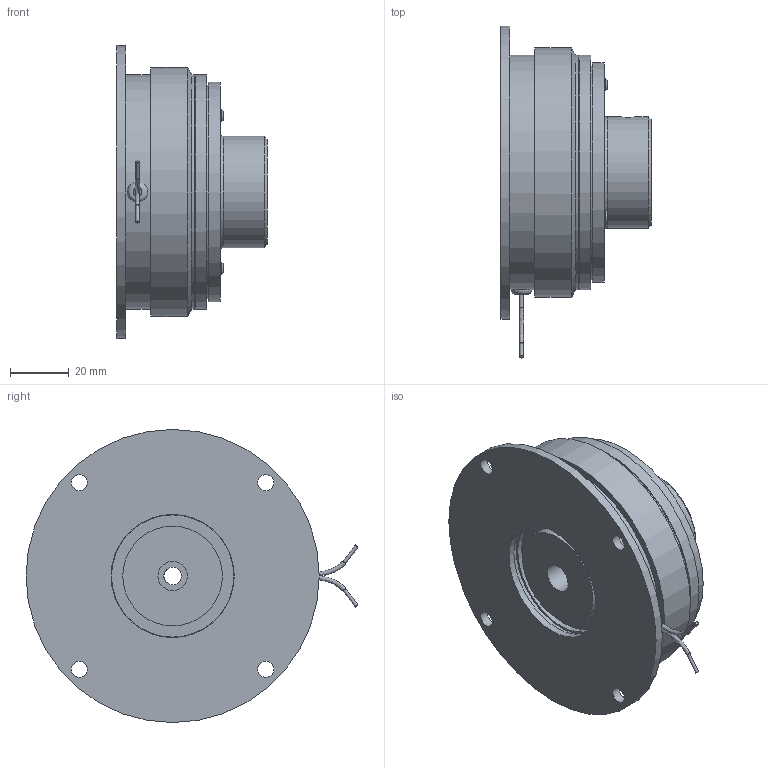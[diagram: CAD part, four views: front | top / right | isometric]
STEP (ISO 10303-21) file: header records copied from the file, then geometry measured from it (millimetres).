
FILE_DESCRIPTION(/* description */ (''),/* implementation_level */ '2;1');
FILE_NAME(/* name */ '\\Srv-tecnico\DATI\UFFICIO TECNICO\ARCHIVIO INVENTOR\DISEGNI\UFFICIO TECNICO\08_Freni_Friz_Elettromagnetici_Monodisco\08_20 ESAL\08_20_080_02 ESAL080_ME\08_20_080_02 ESAL 080_ME@STEP.stp',/* time_stamp */ '2016-06-28T12:06:35+02:00',/* author */ ('stefano'),/* organization */ (''),/* preprocessor_version */ 'ST-DEVELOPER v16.1',/* originating_system */ 'Autodesk Inventor 2016',/* authorisation */ '');
FILE_SCHEMA (('AUTOMOTIVE_DESIGN { 1 0 10303 214 3 1 1 }'));
Length unit declared in the file: millimetre
Products named in the file (1): 08_20_080_02 ESAL 080_ME_Substitute_1
Bounding box: 51.2 x 113.22 x 100 mm (x, y, z)
Volume: 184159.2 mm3; surface area: 61241.7 mm2
Topology: 3 solids, 3 shells, 238 faces, 509 edges, 322 vertices
Faces by surface type: cylinder 84, plane 78, cone 61, torus 10, bspline 5
Full cylindrical faces by diameter (mm): 1.154 x2, 1.5 x2, 2.5 x3, 4 x6, 4.1 x3, 4.917 x1, 5.5 x4, 6 x1, 7.6 x3, 8 x3, 10 x1, 11 x6, 34 x1, 36 x1, 38 x1, 41.7 x1, 42 x4, 43.5 x1, 47 x1, 53 x1, 73 x2, 75 x1, 80 x3, 80.2 x1, 85 x1, 100 x1
Entity records: 6581 total; most frequent: CARTESIAN_POINT 1441, DIRECTION 1073, ORIENTED_EDGE 818, AXIS2_PLACEMENT_3D 480, EDGE_CURVE 404, EDGE_LOOP 381, VERTEX_POINT 292, CIRCLE 246
